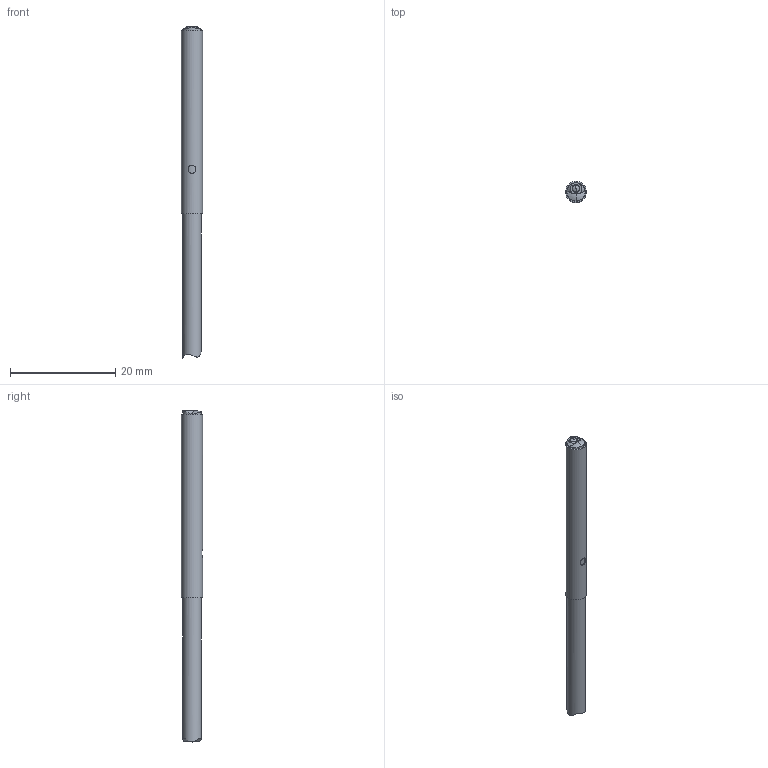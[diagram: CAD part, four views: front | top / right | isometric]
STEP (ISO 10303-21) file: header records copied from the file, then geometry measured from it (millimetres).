
FILE_DESCRIPTION(/* description */ (''),/* implementation_level */ '2;1');
FILE_NAME(/* name */ 'C:\#Vault-WorkDir\Konstruktions-Dokumente\Projekte\Handelsware\FT 04, FT 05\153-13580_FT 04 R-PSL-K3.stp',/* time_stamp */ '2019-02-27T09:16:52+01:00',/* author */ ('SensoPart'),/* organization */ ('SensoPart'),/* preprocessor_version */ 'ST-DEVELOPER v17',/* originating_system */ 'Autodesk Inventor 2018',/* authorisation */ '');
FILE_SCHEMA (('AUTOMOTIVE_DESIGN { 1 0 10303 214 3 1 1 }'));
Length unit declared in the file: millimetre
Products named in the file (1): GH-ENG-0028143
Bounding box: 4 x 4 x 63.18 mm (x, y, z)
Volume: 702.9 mm3; surface area: 790.1 mm2
Topology: 1 solids, 1 shells, 33 faces, 81 edges, 54 vertices
Faces by surface type: plane 12, cylinder 9, bspline 9, cone 2, torus 1
Full cylindrical faces by diameter (mm): 1.25 x1, 1.5 x1, 3.5 x1, 3.55 x1, 4 x1
Entity records: 6006 total; most frequent: CARTESIAN_POINT 5223, ORIENTED_EDGE 154, DIRECTION 123, EDGE_CURVE 77, VERTEX_POINT 54, AXIS2_PLACEMENT_3D 50, EDGE_LOOP 41, STYLED_ITEM 34
